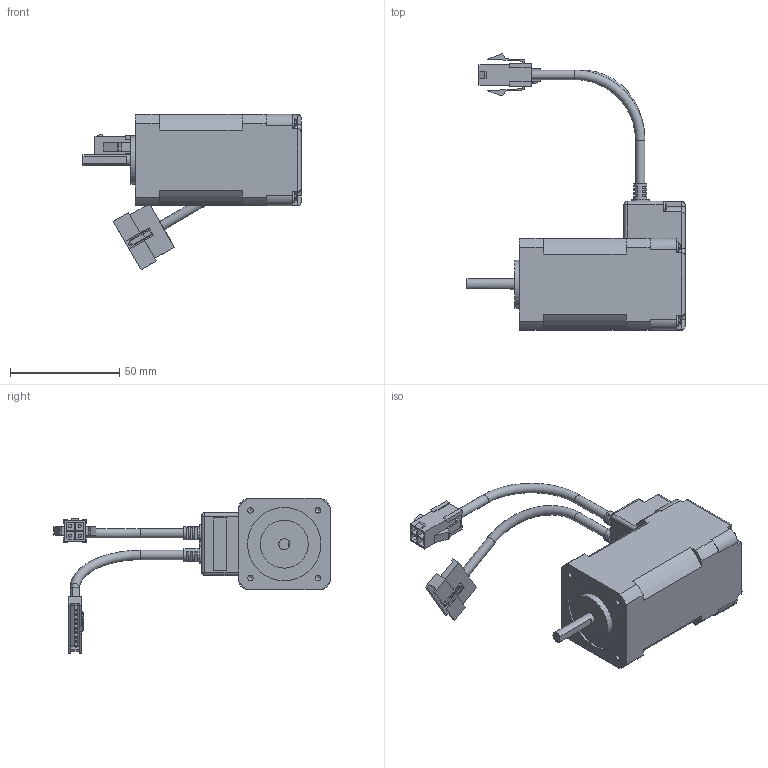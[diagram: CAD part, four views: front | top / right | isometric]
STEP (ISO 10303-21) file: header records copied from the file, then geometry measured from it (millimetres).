
FILE_DESCRIPTION(/* description */ (''),/* implementation_level */ '2;1');
FILE_NAME(/* name */ '\\EMN0D5F01\rp_inventor\RP Mechanical Design\Wiley\Updated Models\eCLM-P174A.stp',/* time_stamp */ '2016-10-27T15:12:40-07:00',/* author */ ('JDB'),/* organization */ ('Parker Hannifin Corp'),/* preprocessor_version */ 'ST-DEVELOPER v15.2',/* originating_system */ 'Autodesk Inventor 2014',/* authorisation */ '');
FILE_SCHEMA (('CONFIG_CONTROL_DESIGN'));
Length unit declared in the file: inch
Products named in the file (1): eCLM-P174A_sw
Bounding box: 100 x 126.61 x 71.22 mm (x, y, z)
Volume: 124154.8 mm3; surface area: 34242.1 mm2
Topology: 3 solids, 3 shells, 629 faces, 1614 edges, 1035 vertices
Faces by surface type: plane 444, cylinder 123, cone 40, sphere 8, torus 8, bspline 6
Full cylindrical faces by diameter (mm): 1 x9, 1.5 x4, 1.6 x4, 2.1 x4, 2.3 x2, 2.5 x4, 4 x5, 4.3 x4, 5 x2, 6 x4, 8 x2, 9.2 x1, 17.5 x1, 22 x1, 33.6 x1
Entity records: 18552 total; most frequent: CARTESIAN_POINT 3653, DIRECTION 3127, ORIENTED_EDGE 2980, EDGE_CURVE 1488, AXIS2_PLACEMENT_3D 1082, VERTEX_POINT 989, LINE 963, VECTOR 963
